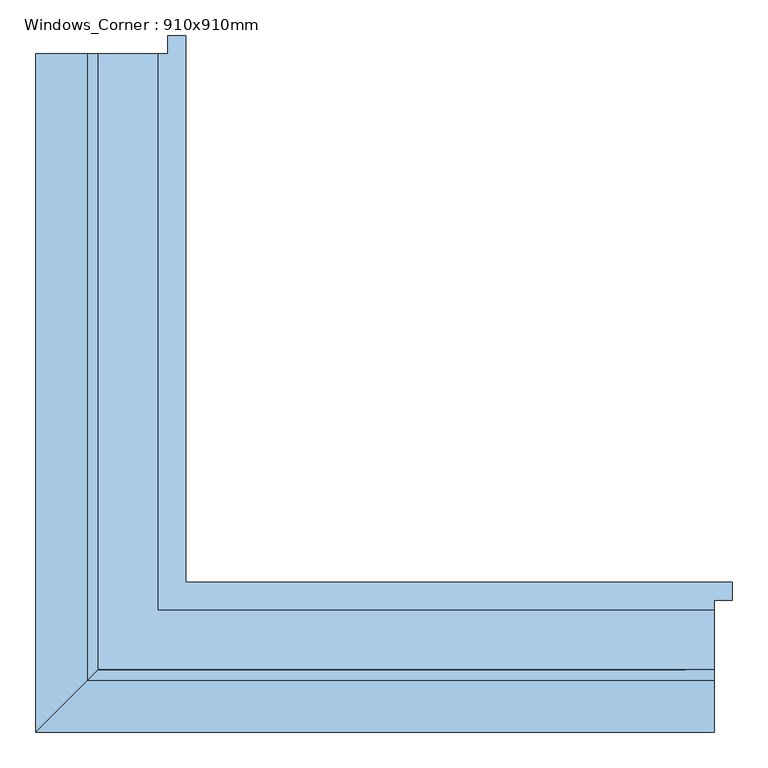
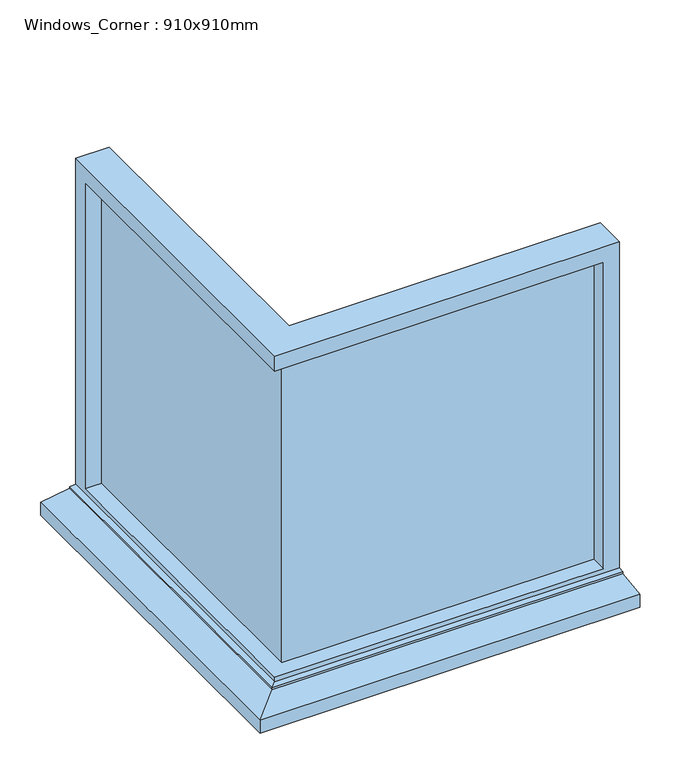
"""IFC4 building model written with IfcOpenShell, lengths in millimetres: window geometry, Windows_Corner : 910x910mm."""

import ifcopenshell
import ifcopenshell.guid

model = None  # the IFC model being written
_history = None  # IfcOwnerHistory: only IFC2X3 demands one
_inside = {}  # id of a spatial element -> (the spatial element, [elements in it])
_under = {}  # id of a project, library or spatial element -> (it, [spatial elements below it])
_declared = {}  # id of a project -> (the project, [libraries it declares])
_typed = {}  # id of a type object -> (the type object, [elements of that type])
_made_of = {}  # id of a material, layer set ... -> (it, [elements and type objects made of it])


def new_model(schema):
    """Start an empty IFC model of exactly this schema.

    Asked for "IFC4X3", IfcOpenShell would pick the latest addendum, in which some entities
    have other attributes; the version numbers below select the first issue.
    IFC2X3 requires an IfcOwnerHistory on every rooted entity: one is made here for all.
    """
    global model, _history
    if schema == "IFC4X3":
        model = ifcopenshell.file(schema_version=(4, 3, 0, 0))
    else:
        model = ifcopenshell.file(schema=schema)
    _inside.clear()
    _under.clear()
    _declared.clear()
    _typed.clear()
    _made_of.clear()
    _history = None
    if model.schema == "IFC2X3":
        org = make("IfcOrganization", Name="unknown")
        user = make(
            "IfcPersonAndOrganization",
            ThePerson=make("IfcPerson", FamilyName="unknown"),
            TheOrganization=org,
        )
        app = make(
            "IfcApplication",
            ApplicationDeveloper=org,
            Version="unknown",
            ApplicationFullName="unknown",
            ApplicationIdentifier="unknown",
        )
        _history = make(
            "IfcOwnerHistory",
            OwningUser=user,
            OwningApplication=app,
            ChangeAction="ADDED",
            CreationDate=0,
        )
    return model


def make(cls, **values):
    """One entity of the class cls with the attributes given. An attribute that is None is left unset."""
    return model.create_entity(
        cls, **{name: value for name, value in values.items() if value is not None}
    )


def rooted(cls, **values):
    """An entity with a GlobalId (a new one), such as an element, a storey or a relation."""
    return make(cls, GlobalId=ifcopenshell.guid.new(), OwnerHistory=_history, **values)


def si_unit(unit_type, name, prefix=None):
    """IfcSIUnit, for example si_unit("LENGTHUNIT", "METRE", prefix="MILLI")."""
    return make("IfcSIUnit", UnitType=unit_type, Prefix=prefix, Name=name)


def assignment(units):
    """IfcUnitAssignment: the units of a project."""
    return None if units is None else make("IfcUnitAssignment", Units=units)


def point(xyz):
    """IfcCartesianPoint."""
    return None if xyz is None else make("IfcCartesianPoint", Coordinates=xyz)


def direction(xyz):
    """IfcDirection."""
    return None if xyz is None else make("IfcDirection", DirectionRatios=xyz)


def frame(location, z_axis=None, x_axis=None):
    """IfcAxis2Placement3D, a coordinate frame: its origin and axes. An axis left out is left unset."""
    return make(
        "IfcAxis2Placement3D",
        Location=point(location),
        Axis=direction(z_axis),
        RefDirection=direction(x_axis),
    )


def origin():
    """The frame at (0, 0, 0) with its axes left unset."""
    return frame((0.0, 0.0, 0.0))


def place(relative_to, where):
    """IfcLocalPlacement: puts the frame where relative to a parent placement (None: the world)."""
    return make(
        "IfcLocalPlacement", PlacementRelTo=relative_to, RelativePlacement=where
    )


def context(
    kind, dimensions, precision=None, world=None, true_north=None, identifier=None
):
    """IfcGeometricRepresentationContext, for example the 3D "Model" context."""
    return make(
        "IfcGeometricRepresentationContext",
        ContextIdentifier=identifier,
        ContextType=kind,
        CoordinateSpaceDimension=dimensions,
        Precision=precision,
        WorldCoordinateSystem=world,
        TrueNorth=true_north,
    )


def project(units=None, contexts=None):
    """IfcProject with its units and contexts."""
    return rooted(
        "IfcProject",
        Name="project",
        RepresentationContexts=contexts,
        UnitsInContext=assignment(units),
    )


def spatial(cls, under=None, at=None, **own):
    """A site, building, storey or space (cls), placed at a placement, below another one or the project."""
    s = rooted(cls, ObjectPlacement=at, **own)
    if under is not None:
        _under.setdefault(under.id(), (under, []))[1].append(s)
    return s


def polyline(points):
    """IfcPolyline through the points."""
    return make("IfcPolyline", Points=[point(p) for p in points])


def outline(outer, holes=None, kind="AREA"):
    """IfcArbitraryClosedProfileDef: a profile drawn as a closed curve; with holes, ...WithVoids."""
    if holes is None:
        return make("IfcArbitraryClosedProfileDef", ProfileType=kind, OuterCurve=outer)
    return make(
        "IfcArbitraryProfileDefWithVoids",
        ProfileType=kind,
        OuterCurve=outer,
        InnerCurves=holes,
    )


def extrude(swept, where, along, depth):
    """IfcExtrudedAreaSolid: the profile swept, set in the frame where, extruded along a direction by depth."""
    return make(
        "IfcExtrudedAreaSolid",
        SweptArea=swept,
        Position=where,
        ExtrudedDirection=direction(along),
        Depth=depth,
    )


def faces_of(points, faces, orient=None, outer=None):
    """IfcFace entities. A face is a list of loops; a loop is a list of indices into points, from 0.

    orient and outer hold one flag for each loop. By default every Orientation is true, the
    first loop of a face is its IfcFaceOuterBound and the others are IfcFaceBound.
    """
    made = []
    for i, loops in enumerate(faces):
        bounds = []
        for j, loop in enumerate(loops):
            is_outer = j == 0 if outer is None else outer[i][j]
            bounds.append(
                make(
                    "IfcFaceOuterBound" if is_outer else "IfcFaceBound",
                    Bound=make("IfcPolyLoop", Polygon=[points[k] for k in loop]),
                    Orientation=True if orient is None else orient[i][j],
                )
            )
        made.append(make("IfcFace", Bounds=bounds))
    return made


def faceted_brep(points, faces, orient=None, outer=None, voids=None):
    """IfcFacetedBrep: a solid bounded by flat faces; with voids (closed shells), ...WithVoids."""
    shared = [point(p) for p in points]
    hull = make("IfcClosedShell", CfsFaces=faces_of(shared, faces, orient, outer))
    if voids is None:
        return make("IfcFacetedBrep", Outer=hull)
    return make(
        "IfcFacetedBrepWithVoids",
        Outer=hull,
        Voids=[
            make(cls, CfsFaces=faces_of(shared, fs, o, b)) for cls, fs, o, b in voids
        ],
    )


def shape(context_of_items, identifier, shape_type, items):
    """IfcShapeRepresentation: the items that make up one representation, for example the "Body"."""
    return make(
        "IfcShapeRepresentation",
        ContextOfItems=context_of_items,
        RepresentationIdentifier=identifier,
        RepresentationType=shape_type,
        Items=items,
    )


def source(mapping_origin, context_of_items, identifier, shape_type, items):
    """IfcRepresentationMap: a shape defined once, which mapped items show again and again."""
    return make(
        "IfcRepresentationMap",
        MappingOrigin=mapping_origin,
        MappedRepresentation=shape(context_of_items, identifier, shape_type, items),
    )


def transform(
    local_origin,
    x_axis=None,
    y_axis=None,
    z_axis=None,
    scale=None,
    scale2=None,
    scale3=None,
    uniform=True,
):
    """IfcCartesianTransformationOperator3D, or its non-uniform kind. x_axis, y_axis, z_axis: its Axis1, 2, 3."""
    if uniform:
        return make(
            "IfcCartesianTransformationOperator3D",
            Axis1=direction(x_axis),
            Axis2=direction(y_axis),
            LocalOrigin=point(local_origin),
            Scale=scale,
            Axis3=direction(z_axis),
        )
    return make(
        "IfcCartesianTransformationOperator3DnonUniform",
        Axis1=direction(x_axis),
        Axis2=direction(y_axis),
        LocalOrigin=point(local_origin),
        Scale=scale,
        Axis3=direction(z_axis),
        Scale2=scale2,
        Scale3=scale3,
    )


def mapped(mapping_source, mapping_target):
    """IfcMappedItem: shows the shape of a source again, moved by a transform."""
    return make(
        "IfcMappedItem", MappingSource=mapping_source, MappingTarget=mapping_target
    )


def made_of(thing, what):
    """Note that an element or type object is made of a material, layer set ...; save() writes the relation."""
    if what is not None:
        _made_of.setdefault(what.id(), (what, []))[1].append(thing)
    return thing


def element(
    cls,
    number,
    at=None,
    inside=None,
    cuts=None,
    type_object=None,
    material=None,
    context=None,
    identifier="Body",
    shape_type=None,
    held_by="IfcProductDefinitionShape",
    body=None,
    shapes=None,
    **own,
):
    """One element of the class cls, such as IfcWall. Its Tag is "e" and its number.

    at: its placement. inside: the storey or other place that contains it. cuts: it is an
    opening in that element (IfcRelVoidsElement). A single representation is given by context,
    identifier, shape_type and body (its items); several are given by shapes. held_by: the class
    of the entity that holds the representations. save() writes the other relations.
    """
    e = rooted(cls, Tag="e%d" % number, ObjectPlacement=at, **own)
    if body is not None:
        shapes = [shape(context, identifier, shape_type, body)]
    if shapes is not None:
        e.Representation = make(held_by, Representations=shapes)
    if inside is not None:
        _inside.setdefault(inside.id(), (inside, []))[1].append(e)
    if cuts is not None:
        rooted(
            "IfcRelVoidsElement", RelatingBuildingElement=cuts, RelatedOpeningElement=e
        )
    if type_object is not None:
        _typed.setdefault(type_object.id(), (type_object, []))[1].append(e)
    return made_of(e, material)


def aggregate(whole, parts):
    """IfcRelAggregates: a whole, such as a stair, and the parts it consists of."""
    return rooted("IfcRelAggregates", RelatingObject=whole, RelatedObjects=parts)


def save(model, path):
    """Write the relations noted so far, then the file.

    IfcRelAggregates (storeys below a building ...), IfcRelContainedInSpatialStructure (elements
    in a storey), IfcRelDefinesByType, IfcRelAssociatesMaterial and IfcRelDeclares: one each for
    every whole, place, type object, material and project.
    """
    for whole, parts in _under.values():
        aggregate(whole, parts)
    for where, things in _inside.values():
        rooted(
            "IfcRelContainedInSpatialStructure",
            RelatedElements=things,
            RelatingStructure=where,
        )
    for kind, things in _typed.values():
        rooted("IfcRelDefinesByType", RelatedObjects=things, RelatingType=kind)
    for what, things in _made_of.values():
        rooted("IfcRelAssociatesMaterial", RelatedObjects=things, RelatingMaterial=what)
    for by, libraries in _declared.values():
        rooted("IfcRelDeclares", RelatingContext=by, RelatedDefinitions=libraries)
    model.write(path)


def windows_corner_910x910mm_2c07b4f4(model_context):
    return source(origin(), model_context, "Body", "SolidModel", [
        extrude(outline(polyline([(415.0, 129.5044029), (415.0, 105.5044029), (-364.0, 105.5044029), (-364.0, 884.5044029), (-340.0, 884.5044029), (-340.0, 129.5044029), (415.0, 129.5044029)])), frame((0.0, 0.0, 1263.0), z_axis=(0.0, 0.0, 1.0), x_axis=(1.0, 0.0, 0.0)), (0.0, 0.0, 1.0), 792.0),
        faceted_brep([(455.0, 147.5044029, 2110.0), (-322.0, 147.5044029, 2110.0), (-322.0, 924.5044029, 2110.0), (-405.0, 924.5044029, 2110.0), (-405.0, 64.5044029, 2110.0), (455.0, 64.5044029, 2110.0), (455.0, 64.5044029, 1251.0), (-405.0, 64.5044029, 2070.0), (415.0, 64.5044029, 2070.0), (415.0, 64.5044029, 1263.0), (-405.0, 64.5044029, 1263.0), (-405.0, 64.5044029, 1251.0), (-405.0, 884.5044029, 2070.0), (-340.0, 884.5044029, 2070.0), (-340.0, 129.5044029, 2070.0), (415.0, 129.5044029, 2070.0), (-340.0, 129.5044029, 2055.0), (400.0, 129.5044029, 2055.0), (400.0, 129.5044029, 1275.0), (-340.0, 129.5044029, 1275.0), (-340.0, 129.5044029, 1263.0), (415.0, 129.5044029, 1263.0), (-340.0, 869.5044029, 2055.0), (-322.0, 869.5044029, 2055.0), (-322.0, 147.5044029, 2055.0), (400.0, 147.5044029, 2055.0), (455.0, 147.5044029, 1200.0), (-322.0, 147.5044029, 1200.0), (-322.0, 147.5044029, 1275.0), (400.0, 147.5044029, 1275.0), (455.0, 49.5044029, 1249.68767), (455.0, 49.5044029, 1244.7449676), (455.0, -22.9955971, 1233.8088847), (455.0, -22.9955971, 1200.0), (-492.5, -22.9955971, 1200.0), (-492.5, 924.5044029, 1200.0), (-322.0, 924.5044029, 1200.0), (-492.5, -22.9955971, 1233.8088847), (-420.0, 49.5044029, 1244.7449676), (-420.0, 49.5044029, 1249.68767), (-340.0, 884.5044029, 1263.0), (-405.0, 884.5044029, 1263.0), (-322.0, 869.5044029, 1275.0), (-340.0, 869.5044029, 1275.0), (-492.5, 924.5044029, 1233.8088847), (-420.0, 924.5044029, 1244.7449676), (-420.0, 924.5044029, 1249.68767), (-405.0, 924.5044029, 1251.0)], [[[0, 1, 2, 3, 4, 5]], [[6, 5, 4, 7, 8, 9, 10, 11]], [[8, 7, 12, 13, 14, 15]], [[14, 16, 17, 18, 19, 20, 21, 15]], [[17, 16, 22, 23, 24, 25]], [[0, 26, 27, 28, 29, 25, 24, 1]], [[6, 30, 31, 32, 33, 26, 0, 5]], [[8, 15, 21, 9]], [[25, 29, 18, 17]], [[33, 34, 35, 36, 27, 26]], [[32, 37, 34, 33]], [[31, 38, 37, 32]], [[30, 39, 38, 31]], [[6, 11, 39, 30]], [[10, 9, 21, 20, 40, 41]], [[19, 18, 29, 28, 42, 43]], [[35, 44, 45, 46, 47, 3, 2, 36]], [[27, 36, 2, 1, 24, 23, 42, 28]], [[34, 37, 44, 35]], [[38, 45, 44, 37]], [[39, 46, 45, 38]], [[11, 47, 46, 39]], [[10, 41, 12, 7, 4, 3, 47, 11]], [[19, 43, 22, 16, 14, 13, 40, 20]], [[22, 43, 42, 23]], [[12, 41, 40, 13]]]),
        extrude(outline(polyline([(-322.0, 147.5044029), (-322.0, 924.5044029), (-308.1017592, 924.5044029), (-308.1017592, 949.5044029), (-283.1017592, 949.5044029), (-283.1017592, 186.4026437), (480.0, 186.4026437), (480.0, 161.4026437), (455.0, 161.4026437), (455.0, 147.5044029), (-322.0, 147.5044029)])), frame((0.0, 0.0, 1200.0), z_axis=(0.0, 0.0, 1.0), x_axis=(1.0, 0.0, 0.0)), (0.0, 0.0, 1.0), 25.0),
    ])


if __name__ == "__main__":
    model = new_model("IFC4")
    model_context = context("Model", 3, world=origin())
    ifc_project = project(units=[si_unit("LENGTHUNIT", "METRE", prefix="MILLI")], contexts=[model_context])
    site = spatial("IfcSite", under=ifc_project)
    building = spatial("IfcBuilding", under=site)
    placement = place(None, origin())
    windows_corner_910x910mm_shape = windows_corner_910x910mm_2c07b4f4(model_context)
    element("IfcWindow", 1, ObjectType="Windows_Corner : 910x910mm", at=placement, inside=building, context=model_context, shape_type="MappedRepresentation", body=[
        mapped(windows_corner_910x910mm_shape, transform((0.0, 0.0, 0.0), x_axis=(1.0, 0.0, 0.0), y_axis=(0.0, 1.0, 0.0), z_axis=(0.0, 0.0, 1.0))),
    ])
    save(model, "model.ifc")
